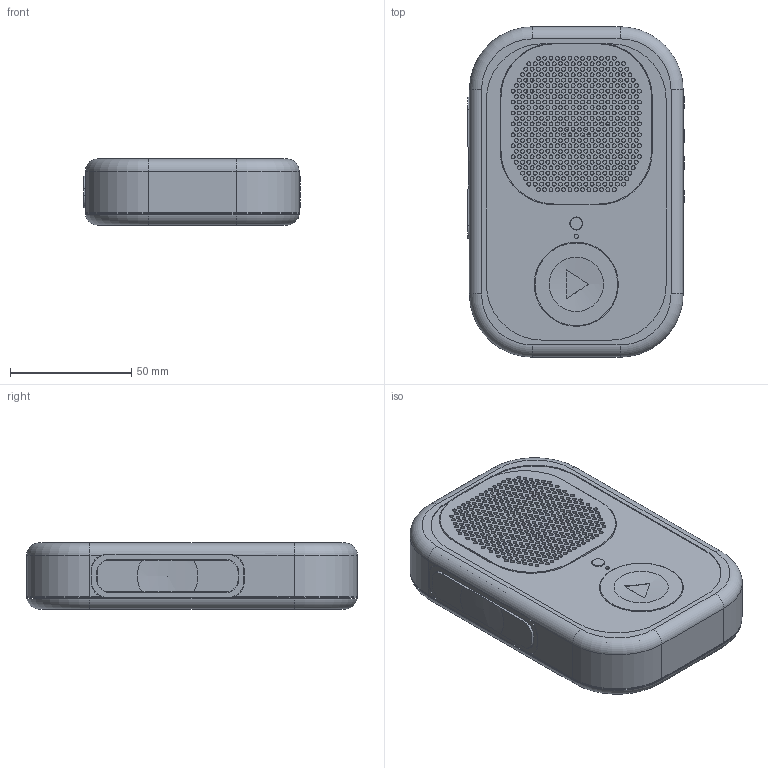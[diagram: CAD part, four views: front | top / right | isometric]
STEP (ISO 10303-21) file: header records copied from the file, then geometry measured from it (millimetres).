
FILE_DESCRIPTION(('Open CASCADE Model'),'2;1');
FILE_NAME('Open CASCADE Shape Model','2026-09-06T11:28:54',('Author'),( 'Open CASCADE'),'Open CASCADE STEP processor 7.7','Open CASCADE 7.7' ,'Unknown');
FILE_SCHEMA(('AUTOMOTIVE_DESIGN { 1 0 10303 214 1 1 1 1 }'));
Length unit declared in the file: millimetre
Products named in the file (70): Walkie_One_5_2_R6_FABRICATED_INSTALLED; 01_front_structural_tub; 01_front_structural_tub_part; 02_rear_structural_cover; 02_rear_structural_cover_part; 03_front_perimeter_bumper; 03_front_perimeter_bumper_part; 04_rear_perimeter_bumper; 04_rear_perimeter_bumper_part; 05_perforated_rigid_speaker_panel; 05_perforated_rigid_speaker_panel_part; 07_speaker_edge_cradle; 07_speaker_edge_cradle_part; 08_speaker_front_gasket; 08_speaker_front_gasket_part; 09_battery_tray; 09_battery_tray_part; 21_ptt_grip_pad; 21_ptt_grip_pad_part; 10_ptt_key; 10_ptt_key_part; 11_ptt_bumper_collar; 11_ptt_bumper_collar_part; 12_ptt_switch_cradle; 12_ptt_switch_cradle_part; 21_volume_plus_grip_pad; 21_volume_plus_grip_pad_part; 10_volume_plus_key; 10_volume_plus_key_part; 11_volume_plus_bumper_collar; 11_volume_plus_bumper_collar_part; 12_volume_plus_switch_cradle; 12_volume_plus_switch_cradle_part; 21_volume_minus_grip_pad; 21_volume_minus_grip_pad_part; 10_volume_minus_key; 10_volume_minus_key_part; 11_volume_minus_bumper_collar; 11_volume_minus_bumper_collar_part; 12_volume_minus_switch_cradle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
Assembly tree (69 placements, depth 4):
  Walkie_One_5_2_R6_FABRICATED_INSTALLED
    Walkie_One_5_2_R6_FABRICATED_INSTALLED
      01_front_structural_tub
        01_front_structural_tub_part
      02_rear_structural_cover
        02_rear_structural_cover_part
      03_front_perimeter_bumper
        03_front_perimeter_bumper_part
      04_rear_perimeter_bumper
        04_rear_perimeter_bumper_part
      05_perforated_rigid_speaker_panel
        05_perforated_rigid_speaker_panel_part
      07_speaker_edge_cradle
        07_speaker_edge_cradle_part
      08_speaker_front_gasket
        08_speaker_front_gasket_part
      09_battery_tray
        09_battery_tray_part
      21_ptt_grip_pad
        21_ptt_grip_pad_part
      10_ptt_key
        10_ptt_key_part
      11_ptt_bumper_collar
        11_ptt_bumper_collar_part
      12_ptt_switch_cradle
        12_ptt_switch_cradle_part
      21_volume_plus_grip_pad
        21_volume_plus_grip_pad_part
      10_volume_plus_key
        10_volume_plus_key_part
      11_volume_plus_bumper_collar
        11_volume_plus_bumper_collar_part
      12_volume_plus_switch_cradle
        12_volume_plus_switch_cradle_part
      21_volume_minus_grip_pad
        21_volume_minus_grip_pad_part
      10_volume_minus_key
        10_volume_minus_key_part
      11_volume_minus_bumper_collar
        11_volume_minus_bumper_collar_part
      12_volume_minus_switch_cradle
        12_volume_minus_switch_cradle_part
      13_circular_play_key
        13_circular_play_key_part
      15_front_switch_holder
        15_front_switch_holder_part
      16_rgb_led_support_ring
        16_rgb_led_support_ring_part
      17_microphone_cradle
        17_microphone_cradle_part
      18_microphone_acoustic_gasket
        18_microphone_acoustic_gasket_part
      19_lte_antenna_seat
        19_lte_antenna_seat_part
      27_offset_status_light_guide
        27_offset_status_light_guide_part
      30_optical_support_pad_1
        30_optical_support_pad_1_part
      30_optical_support_pad_2
        30_optical_support_pad_2_part
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Bounding box: 89.16 x 136 x 27.2 mm (x, y, z)
Volume: 89003.6 mm3; surface area: 136101.3 mm2
Topology: 34 solids, 36 shells, 1804 faces, 5038 edges, 3331 vertices
Faces by surface type: cylinder 899, plane 849, torus 44, cone 8, sphere 4
Full cylindrical faces by diameter (mm): 1.6 x473, 1.8 x2, 2 x1, 2.8 x4, 5 x3, 5.3 x3, 5.4 x1, 6.2 x2, 7 x1, 34 x1, 34.6 x1, 36.4 x2, 39.6 x1
Entity records: 134007 total; most frequent: CARTESIAN_POINT 32528, DIRECTION 18715, LINE 10406, VECTOR 10406, ORIENTED_EDGE 10074, PCURVE 10074, DEFINITIONAL_REPRESENTATION 10074, EDGE_CURVE 5037
